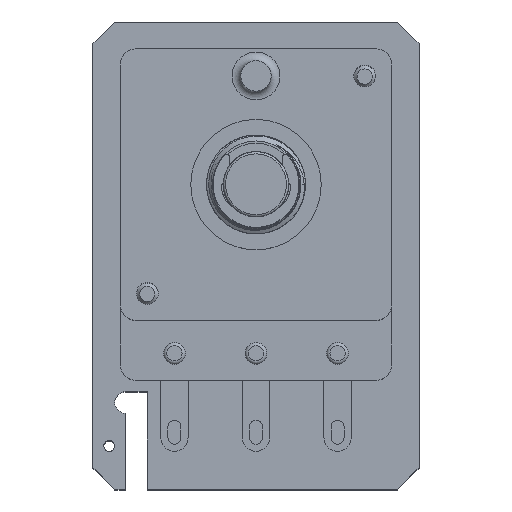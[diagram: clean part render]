
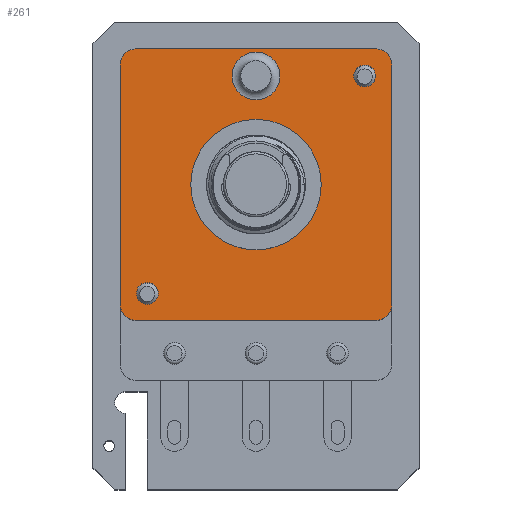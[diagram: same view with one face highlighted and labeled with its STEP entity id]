
A CAD part, top view. The second image highlights one B-rep face of the part: STEP entity #261.
In plain terms, the highlighted planar face has unit normal (0, 0, 1).
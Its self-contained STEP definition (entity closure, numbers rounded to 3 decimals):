
#242 = VERTEX_POINT('',#243);
#243 = CARTESIAN_POINT('',(11.,10.,-1.));
#250 = EDGE_CURVE('',#242,#242,#251,.T.);
#251 = CIRCLE('',#252,1.);
#252 = AXIS2_PLACEMENT_3D('',#253,#254,#255);
#253 = CARTESIAN_POINT('',(10.,10.,-1.));
#254 = DIRECTION('',(0.,0.,-1.));
#255 = DIRECTION('',(1.,0.,0.));
#261 = ADVANCED_FACE('',(#262,#332,#343,#354,#365),#368,.T.);
#262 = FACE_BOUND('',#263,.T.);
#263 = EDGE_LOOP('',(#264,#274,#283,#291,#300,#308,#317,#325));
#264 = ORIENTED_EDGE('',*,*,#265,.F.);
#265 = EDGE_CURVE('',#266,#268,#270,.T.);
#266 = VERTEX_POINT('',#267);
#267 = CARTESIAN_POINT('',(-12.5,-11.,-1.));
#268 = VERTEX_POINT('',#269);
#269 = CARTESIAN_POINT('',(-12.5,11.,-1.));
#270 = LINE('',#271,#272);
#271 = CARTESIAN_POINT('',(-12.5,-12.5,-1.));
#272 = VECTOR('',#273,1.);
#273 = DIRECTION('',(0.,1.,0.));
#274 = ORIENTED_EDGE('',*,*,#275,.T.);
#275 = EDGE_CURVE('',#266,#276,#278,.T.);
#276 = VERTEX_POINT('',#277);
#277 = CARTESIAN_POINT('',(-11.,-12.5,-1.));
#278 = CIRCLE('',#279,1.5);
#279 = AXIS2_PLACEMENT_3D('',#280,#281,#282);
#280 = CARTESIAN_POINT('',(-11.,-11.,-1.));
#281 = DIRECTION('',(-0.,0.,1.));
#282 = DIRECTION('',(0.,-1.,0.));
#283 = ORIENTED_EDGE('',*,*,#284,.T.);
#284 = EDGE_CURVE('',#276,#285,#287,.T.);
#285 = VERTEX_POINT('',#286);
#286 = CARTESIAN_POINT('',(11.,-12.5,-1.));
#287 = LINE('',#288,#289);
#288 = CARTESIAN_POINT('',(-12.5,-12.5,-1.));
#289 = VECTOR('',#290,1.);
#290 = DIRECTION('',(1.,0.,0.));
#291 = ORIENTED_EDGE('',*,*,#292,.T.);
#292 = EDGE_CURVE('',#285,#293,#295,.T.);
#293 = VERTEX_POINT('',#294);
#294 = CARTESIAN_POINT('',(12.5,-11.,-1.));
#295 = CIRCLE('',#296,1.5);
#296 = AXIS2_PLACEMENT_3D('',#297,#298,#299);
#297 = CARTESIAN_POINT('',(11.,-11.,-1.));
#298 = DIRECTION('',(-0.,0.,1.));
#299 = DIRECTION('',(0.,-1.,0.));
#300 = ORIENTED_EDGE('',*,*,#301,.T.);
#301 = EDGE_CURVE('',#293,#302,#304,.T.);
#302 = VERTEX_POINT('',#303);
#303 = CARTESIAN_POINT('',(12.5,11.,-1.));
#304 = LINE('',#305,#306);
#305 = CARTESIAN_POINT('',(12.5,-12.5,-1.));
#306 = VECTOR('',#307,1.);
#307 = DIRECTION('',(0.,1.,0.));
#308 = ORIENTED_EDGE('',*,*,#309,.F.);
#309 = EDGE_CURVE('',#310,#302,#312,.T.);
#310 = VERTEX_POINT('',#311);
#311 = CARTESIAN_POINT('',(11.,12.5,-1.));
#312 = CIRCLE('',#313,1.5);
#313 = AXIS2_PLACEMENT_3D('',#314,#315,#316);
#314 = CARTESIAN_POINT('',(11.,11.,-1.));
#315 = DIRECTION('',(-0.,-0.,-1.));
#316 = DIRECTION('',(0.,-1.,0.));
#317 = ORIENTED_EDGE('',*,*,#318,.F.);
#318 = EDGE_CURVE('',#319,#310,#321,.T.);
#319 = VERTEX_POINT('',#320);
#320 = CARTESIAN_POINT('',(-11.,12.5,-1.));
#321 = LINE('',#322,#323);
#322 = CARTESIAN_POINT('',(-12.5,12.5,-1.));
#323 = VECTOR('',#324,1.);
#324 = DIRECTION('',(1.,0.,0.));
#325 = ORIENTED_EDGE('',*,*,#326,.F.);
#326 = EDGE_CURVE('',#268,#319,#327,.T.);
#327 = CIRCLE('',#328,1.5);
#328 = AXIS2_PLACEMENT_3D('',#329,#330,#331);
#329 = CARTESIAN_POINT('',(-11.,11.,-1.));
#330 = DIRECTION('',(-0.,-0.,-1.));
#331 = DIRECTION('',(0.,-1.,0.));
#332 = FACE_BOUND('',#333,.T.);
#333 = EDGE_LOOP('',(#334));
#334 = ORIENTED_EDGE('',*,*,#335,.T.);
#335 = EDGE_CURVE('',#336,#336,#338,.T.);
#336 = VERTEX_POINT('',#337);
#337 = CARTESIAN_POINT('',(-9.,-10.,-1.));
#338 = CIRCLE('',#339,1.);
#339 = AXIS2_PLACEMENT_3D('',#340,#341,#342);
#340 = CARTESIAN_POINT('',(-10.,-10.,-1.));
#341 = DIRECTION('',(0.,0.,-1.));
#342 = DIRECTION('',(1.,0.,0.));
#343 = FACE_BOUND('',#344,.T.);
#344 = EDGE_LOOP('',(#345));
#345 = ORIENTED_EDGE('',*,*,#346,.F.);
#346 = EDGE_CURVE('',#347,#347,#349,.T.);
#347 = VERTEX_POINT('',#348);
#348 = CARTESIAN_POINT('',(6.,0.,-1.));
#349 = CIRCLE('',#350,6.);
#350 = AXIS2_PLACEMENT_3D('',#351,#352,#353);
#351 = CARTESIAN_POINT('',(0.,0.,-1.));
#352 = DIRECTION('',(0.,0.,1.));
#353 = DIRECTION('',(1.,0.,-0.));
#354 = FACE_BOUND('',#355,.T.);
#355 = EDGE_LOOP('',(#356));
#356 = ORIENTED_EDGE('',*,*,#357,.F.);
#357 = EDGE_CURVE('',#358,#358,#360,.T.);
#358 = VERTEX_POINT('',#359);
#359 = CARTESIAN_POINT('',(2.2,10.,-1.));
#360 = CIRCLE('',#361,2.2);
#361 = AXIS2_PLACEMENT_3D('',#362,#363,#364);
#362 = CARTESIAN_POINT('',(0.,10.,-1.));
#363 = DIRECTION('',(0.,0.,1.));
#364 = DIRECTION('',(1.,0.,-0.));
#365 = FACE_BOUND('',#366,.T.);
#366 = EDGE_LOOP('',(#367));
#367 = ORIENTED_EDGE('',*,*,#250,.T.);
#368 = PLANE('',#369);
#369 = AXIS2_PLACEMENT_3D('',#370,#371,#372);
#370 = CARTESIAN_POINT('',(-12.5,-12.5,-1.));
#371 = DIRECTION('',(0.,0.,1.));
#372 = DIRECTION('',(1.,0.,-0.));
